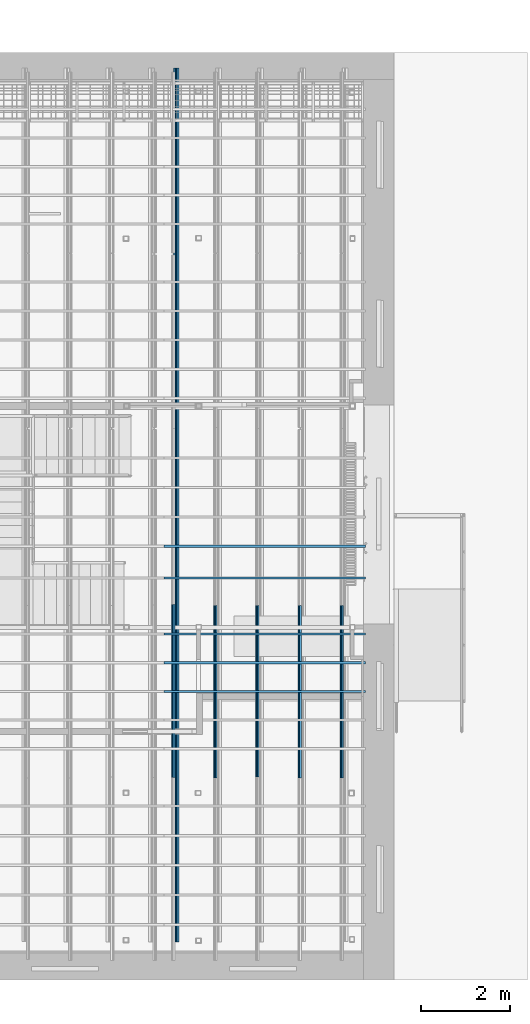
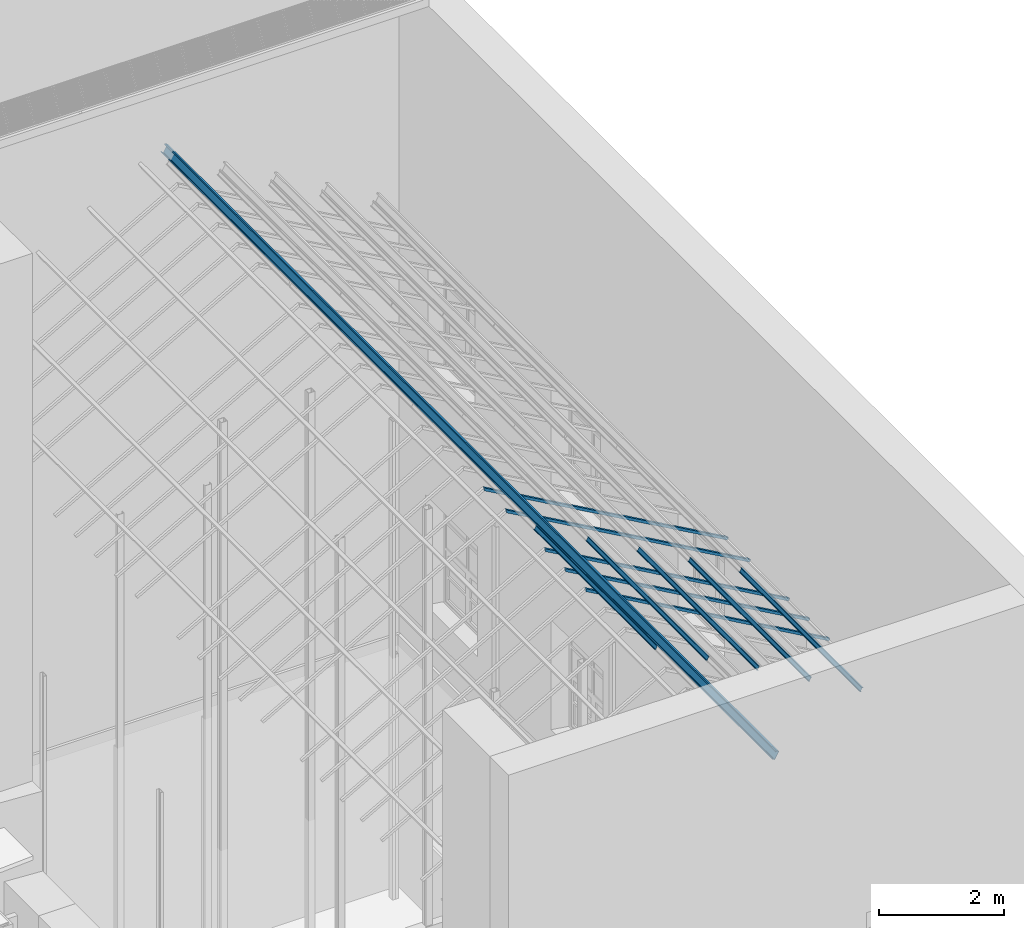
# One storey, part 24 of 75: 11 beams.
"""IFC2X3 building model written with IfcOpenShell, lengths in metres."""

from ifc_helpers import new_model, entity, si_unit, converted_unit, derived_unit, direction, frame, frame_2d, origin, origin_2d_with_axis, place, context, subcontext, project, spatial, polyline, circle_curve, parameter, trimmed, segment, composite_curve, rectangle, outline, extrude, clip, halfspace, material, type_object, element, save


model = new_model("IFC2X3")

# Units and contexts
model_context = context("Model", 3, precision=1e-05, world=origin(), true_north=direction((6.12303176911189e-17, 1.0)))
body_context = subcontext(model_context, "Body", "Model", "MODEL_VIEW")
ifc_project = project(units=[si_unit("LENGTHUNIT", "METRE"), si_unit("AREAUNIT", "SQUARE_METRE"), si_unit("VOLUMEUNIT", "CUBIC_METRE"), converted_unit("PLANEANGLEUNIT", "DEGREE", entity("IfcRatioMeasure", 0.0174532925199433), si_unit("PLANEANGLEUNIT", "RADIAN"), dimensions=[0, 0, 0, 0, 0, 0, 0]), si_unit("MASSUNIT", "GRAM", prefix="KILO"), derived_unit("MASSDENSITYUNIT", [(si_unit("MASSUNIT", "GRAM", prefix="KILO"), 1), (si_unit("LENGTHUNIT", "METRE"), -3)]), derived_unit("MOMENTOFINERTIAUNIT", [(si_unit("LENGTHUNIT", "METRE"), 4)]), si_unit("TIMEUNIT", "SECOND"), si_unit("FREQUENCYUNIT", "HERTZ"), si_unit("THERMODYNAMICTEMPERATUREUNIT", "DEGREE_CELSIUS"), derived_unit("THERMALTRANSMITTANCEUNIT", [(si_unit("MASSUNIT", "GRAM", prefix="KILO"), 1), (si_unit("THERMODYNAMICTEMPERATUREUNIT", "KELVIN"), -1), (si_unit("TIMEUNIT", "SECOND"), -3)]), derived_unit("VOLUMETRICFLOWRATEUNIT", [(si_unit("LENGTHUNIT", "METRE"), 3), (si_unit("TIMEUNIT", "SECOND"), -1)]), si_unit("ELECTRICCURRENTUNIT", "AMPERE"), si_unit("ELECTRICVOLTAGEUNIT", "VOLT"), si_unit("POWERUNIT", "WATT"), si_unit("FORCEUNIT", "NEWTON", prefix="KILO"), si_unit("ILLUMINANCEUNIT", "LUX"), si_unit("LUMINOUSFLUXUNIT", "LUMEN"), si_unit("LUMINOUSINTENSITYUNIT", "CANDELA"), derived_unit("USERDEFINED", [(si_unit("MASSUNIT", "GRAM", prefix="KILO"), -1), (si_unit("LENGTHUNIT", "METRE"), -2), (si_unit("TIMEUNIT", "SECOND"), 3), (si_unit("LUMINOUSFLUXUNIT", "LUMEN"), 1)]), derived_unit("LINEARVELOCITYUNIT", [(si_unit("LENGTHUNIT", "METRE"), 1), (si_unit("TIMEUNIT", "SECOND"), -1)]), si_unit("PRESSUREUNIT", "PASCAL"), derived_unit("USERDEFINED", [(si_unit("LENGTHUNIT", "METRE"), -2), (si_unit("MASSUNIT", "GRAM", prefix="KILO"), 1), (si_unit("TIMEUNIT", "SECOND"), -2)]), derived_unit("LINEARFORCEUNIT", [(si_unit("MASSUNIT", "GRAM", prefix="KILO"), 1), (si_unit("LENGTHUNIT", "METRE"), 1), (si_unit("TIMEUNIT", "SECOND"), -2), (si_unit("LENGTHUNIT", "METRE"), -1)]), derived_unit("PLANARFORCEUNIT", [(si_unit("MASSUNIT", "GRAM", prefix="KILO"), 1), (si_unit("LENGTHUNIT", "METRE"), 1), (si_unit("TIMEUNIT", "SECOND"), -2), (si_unit("LENGTHUNIT", "METRE"), -2)])], contexts=[model_context])

# Site, building, storey
site_placement = place(None, origin())
site = spatial("IfcSite", under=ifc_project, at=site_placement, Name="Superficie", CompositionType="ELEMENT")
building_placement = place(site_placement, origin())
building = spatial("IfcBuilding", under=site, at=building_placement, Name="Telegestiones", CompositionType="ELEMENT")
storey_placement = place(building_placement, origin())
storey = spatial("IfcBuildingStorey", under=building, at=storey_placement, Name="Nivel 0_NPT", CompositionType="ELEMENT", Elevation=0.0)

# Beams
ifc_material_1 = material(Name="Metal - Acero - 345 MPa")
beam_type_1 = type_object("IfcBeamType", Name="EST-PER-C-HGalv:C150X19.3", PredefinedType="NOTDEFINED")
beam_1_placement = place(storey_placement, frame((10.7476757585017, 13.523607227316, 15.5982882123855), z_axis=(0.0, 0.0, 1.0), x_axis=(0.0, -1.0, 0.0)))
element("IfcBeam", 1, at=beam_1_placement, inside=storey, type_object=beam_type_1, material=ifc_material_1, Name="EST-PER-C-HGalv:C150X19.3", ObjectType="EST-PER-C-HGalv:C150X19.3", context=body_context, shape_type="SweptSolid", body=[
    extrude(outline(polyline([(-0.0396666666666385, -0.0800000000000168), (0.0203333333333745, -0.0800000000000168), (0.020333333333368, -0.0600000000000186), (0.0183333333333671, -0.0600000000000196), (0.0183333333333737, -0.0780000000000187), (-0.0376666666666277, -0.0780000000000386), (-0.0376666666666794, 0.0779999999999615), (0.0183333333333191, 0.0779999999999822), (0.0183333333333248, 0.05999999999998), (0.0203333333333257, 0.059999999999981), (0.02033333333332, 0.0799999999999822), (-0.0396666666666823, 0.0799999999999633), (-0.0396666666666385, -0.0800000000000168)])), frame((-0.470000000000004, 0.0162169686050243, 0.0827212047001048), z_axis=(1.0, 0.0, 0.0), x_axis=(0.0, -0.870679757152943, 0.4918503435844)), (0.0, 0.0, 1.0), 19.55),
])
beam_type_2 = type_object("IfcBeamType", Name="IPN - Secciones en I con alas cónicas:IPN 80", PredefinedType="NOTDEFINED")
beam_2_placement = place(storey_placement, frame((10.7251251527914, -1.86439277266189, 15.6110271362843), z_axis=(0.0, 0.0, 1.0), x_axis=(0.0, 1.0, 0.0)))
element("IfcBeam", 2, at=beam_2_placement, inside=storey, type_object=beam_type_2, material=ifc_material_1, Name="IPN - Secciones en I con alas cónicas:IPN 80", ObjectType="IPN - Secciones en I con alas cónicas:IPN 80", context=body_context, shape_type="SweptSolid", body=[
    extrude(outline(composite_curve([segment(polyline([(0.0375704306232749, -0.021000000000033), (0.0399999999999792, -0.021000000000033)]), True, "CONTINUOUS"), segment(polyline([(0.0399999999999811, -0.0210000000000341), (0.0400000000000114, 0.0209999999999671)]), True, "CONTINUOUS"), segment(polyline([(0.0400000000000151, 0.020999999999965), (0.0375704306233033, 0.0209999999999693)]), True, "CONTINUOUS"), segment(trimmed(circle_curve(frame_2d((0.0375704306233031, 0.0186999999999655), x_axis=(0.0, 1.0)), 0.00230000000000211), [parameter(0.0)], [parameter(82.0303896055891)], True, "PARAMETER"), True, "CONTINUOUS"), segment(polyline([(0.0352926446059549, 0.0190188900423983), (0.0333732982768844, 0.0053092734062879)]), True, "CONTINUOUS"), segment(trimmed(circle_curve(frame_2d((0.0295109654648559, 0.00584999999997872), x_axis=(0.990341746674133, -0.138647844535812)), 0.00390000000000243), [parameter(277.969610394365)], [parameter(0.0)], True, "PARAMETER"), False, "CONTINUOUS"), segment(polyline([(0.0295109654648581, 0.00194999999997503), (-0.0295109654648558, 0.00195000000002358)]), True, "CONTINUOUS"), segment(trimmed(circle_curve(frame_2d((-0.0295109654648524, 0.00585000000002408), x_axis=(0.0, -1.0)), 0.0038999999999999), [parameter(277.969610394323)], [parameter(0.0)], True, "PARAMETER"), False, "CONTINUOUS"), segment(polyline([(-0.0333732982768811, 0.00530927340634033), (-0.0352926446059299, 0.0190188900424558)]), True, "CONTINUOUS"), segment(trimmed(circle_curve(frame_2d((-0.0375704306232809, 0.0187000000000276), x_axis=(0.990341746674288, 0.13864784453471)), 0.00230000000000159), [parameter(0.0)], [parameter(82.0303896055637)], True, "PARAMETER"), True, "CONTINUOUS"), segment(polyline([(-0.0375704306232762, 0.0210000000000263), (-0.0399999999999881, 0.0210000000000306)]), True, "CONTINUOUS"), segment(polyline([(-0.0399999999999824, 0.0210000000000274), (-0.0400000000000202, -0.0209999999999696)]), True, "CONTINUOUS"), segment(polyline([(-0.0400000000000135, -0.0209999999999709), (-0.0375704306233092, -0.0209999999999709)]), True, "CONTINUOUS"), segment(trimmed(circle_curve(frame_2d((-0.037570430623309, -0.0186999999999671), x_axis=(0.0, -1.0)), 0.00230000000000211), [parameter(0.0)], [parameter(82.0303896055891)], True, "PARAMETER"), True, "CONTINUOUS"), segment(polyline([(-0.0352926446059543, -0.0190188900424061), (-0.0333732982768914, -0.00530927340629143)]), True, "CONTINUOUS"), segment(trimmed(circle_curve(frame_2d((-0.0295109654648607, -0.00584999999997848), x_axis=(-0.990341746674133, 0.138647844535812)), 0.00390000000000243), [parameter(277.969610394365)], [parameter(0.0)], True, "PARAMETER"), False, "CONTINUOUS"), segment(polyline([(-0.0295109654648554, -0.00194999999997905), (0.0295109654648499, -0.00195000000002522)]), True, "CONTINUOUS"), segment(trimmed(circle_curve(frame_2d((0.0295109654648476, -0.00585000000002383), x_axis=(0.0, 1.0)), 0.0038999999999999), [parameter(277.969610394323)], [parameter(0.0)], True, "PARAMETER"), False, "CONTINUOUS"), segment(polyline([(0.0333732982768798, -0.00530927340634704), (0.035292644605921, -0.0190188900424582)]), True, "CONTINUOUS"), segment(trimmed(circle_curve(frame_2d((0.037570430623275, -0.0187000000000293), x_axis=(-0.990341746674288, -0.13864784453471)), 0.00230000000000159), [parameter(0.0)], [parameter(82.0303896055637)], True, "PARAMETER"), True, "CONTINUOUS")], self_intersect=False)), frame((-0.0138500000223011, 0.0245925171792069, -0.0435339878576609), z_axis=(1.0, 0.0, 0.0), x_axis=(0.0, -0.491850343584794, 0.87067975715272)), (0.0, 0.0, 1.0), 3.8738500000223),
])
beam_3_placement = place(storey_placement, frame((14.4995219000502, -1.87519277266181, 13.4788558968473), z_axis=(0.0, 0.0, 1.0), x_axis=(0.0, 1.0, 0.0)))
element("IfcBeam", 3, at=beam_3_placement, inside=storey, type_object=beam_type_2, material=ifc_material_1, Name="IPN - Secciones en I con alas cónicas:IPN 80", ObjectType="IPN - Secciones en I con alas cónicas:IPN 80", context=body_context, shape_type="SweptSolid", body=[
    extrude(outline(composite_curve([segment(polyline([(0.0375704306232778, -0.0210000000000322), (0.0399999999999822, -0.0210000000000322)]), True, "CONTINUOUS"), segment(polyline([(0.0399999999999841, -0.0210000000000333), (0.0400000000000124, 0.020999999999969)]), True, "CONTINUOUS"), segment(polyline([(0.0400000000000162, 0.0209999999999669), (0.0375704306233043, 0.0209999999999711)]), True, "CONTINUOUS"), segment(trimmed(circle_curve(frame_2d((0.0375704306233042, 0.0186999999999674), x_axis=(0.0, 1.0)), 0.00230000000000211), [parameter(0.0)], [parameter(82.0303896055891)], True, "PARAMETER"), True, "CONTINUOUS"), segment(polyline([(0.0352926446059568, 0.0190188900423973), (0.0333732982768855, 0.00530927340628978)]), True, "CONTINUOUS"), segment(trimmed(circle_curve(frame_2d((0.029510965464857, 0.0058499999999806), x_axis=(0.990341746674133, -0.138647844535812)), 0.00390000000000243), [parameter(277.969610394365)], [parameter(0.0)], True, "PARAMETER"), False, "CONTINUOUS"), segment(polyline([(0.0295109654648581, 0.00194999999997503), (-0.0295109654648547, 0.00195000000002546)]), True, "CONTINUOUS"), segment(trimmed(circle_curve(frame_2d((-0.0295109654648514, 0.00585000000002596), x_axis=(0.0, -1.0)), 0.0038999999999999), [parameter(277.969610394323)], [parameter(0.0)], True, "PARAMETER"), False, "CONTINUOUS"), segment(polyline([(-0.0333732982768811, 0.00530927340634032), (-0.0352926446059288, 0.0190188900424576)]), True, "CONTINUOUS"), segment(trimmed(circle_curve(frame_2d((-0.0375704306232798, 0.0187000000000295), x_axis=(0.990341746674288, 0.13864784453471)), 0.00230000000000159), [parameter(0.0)], [parameter(82.0303896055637)], True, "PARAMETER"), True, "CONTINUOUS"), segment(polyline([(-0.0375704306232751, 0.0210000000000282), (-0.039999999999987, 0.0210000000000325)]), True, "CONTINUOUS"), segment(polyline([(-0.0399999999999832, 0.0210000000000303), (-0.0400000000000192, -0.0209999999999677)]), True, "CONTINUOUS"), segment(polyline([(-0.0400000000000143, -0.020999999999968), (-0.03757043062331, -0.020999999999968)]), True, "CONTINUOUS"), segment(trimmed(circle_curve(frame_2d((-0.0375704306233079, -0.0186999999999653), x_axis=(0.0, -1.0)), 0.00230000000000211), [parameter(0.0)], [parameter(82.0303896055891)], True, "PARAMETER"), True, "CONTINUOUS"), segment(polyline([(-0.035292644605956, -0.0190188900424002), (-0.0333732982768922, -0.00530927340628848)]), True, "CONTINUOUS"), segment(trimmed(circle_curve(frame_2d((-0.0295109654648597, -0.00584999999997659), x_axis=(-0.990341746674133, 0.138647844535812)), 0.00390000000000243), [parameter(277.969610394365)], [parameter(0.0)], True, "PARAMETER"), False, "CONTINUOUS"), segment(polyline([(-0.0295109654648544, -0.00194999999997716), (0.029510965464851, -0.00195000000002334)]), True, "CONTINUOUS"), segment(trimmed(circle_curve(frame_2d((0.0295109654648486, -0.00585000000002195), x_axis=(0.0, 1.0)), 0.0038999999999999), [parameter(277.969610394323)], [parameter(0.0)], True, "PARAMETER"), False, "CONTINUOUS"), segment(polyline([(0.0333732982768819, -0.00530927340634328), (0.0352926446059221, -0.0190188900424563)]), True, "CONTINUOUS"), segment(trimmed(circle_curve(frame_2d((0.0375704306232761, -0.0187000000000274), x_axis=(-0.990341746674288, -0.13864784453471)), 0.00230000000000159), [parameter(0.0)], [parameter(82.0303896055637)], True, "PARAMETER"), True, "CONTINUOUS")], self_intersect=False)), frame((-0.0138500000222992, 0.0245925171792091, -0.0435339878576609), z_axis=(1.0, 0.0, 0.0), x_axis=(0.0, -0.491850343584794, 0.87067975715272)), (0.0, 0.0, 1.0), 3.8608500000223),
])
beam_4_placement = place(storey_placement, frame((11.6687243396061, -1.8751927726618, 15.0779843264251), z_axis=(0.0, 0.0, 1.0), x_axis=(0.0, 1.0, 0.0)))
element("IfcBeam", 4, at=beam_4_placement, inside=storey, type_object=beam_type_2, material=ifc_material_1, Name="IPN - Secciones en I con alas cónicas:IPN 80", ObjectType="IPN - Secciones en I con alas cónicas:IPN 80", context=body_context, shape_type="SweptSolid", body=[
    extrude(outline(composite_curve([segment(polyline([(0.0375704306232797, -0.0210000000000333), (0.0399999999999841, -0.0210000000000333)]), True, "CONTINUOUS"), segment(polyline([(0.0399999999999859, -0.0210000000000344), (0.0400000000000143, 0.020999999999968)]), True, "CONTINUOUS"), segment(polyline([(0.0400000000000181, 0.0209999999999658), (0.0375704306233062, 0.0209999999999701)]), True, "CONTINUOUS"), segment(trimmed(circle_curve(frame_2d((0.0375704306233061, 0.0186999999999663), x_axis=(0.0, 1.0)), 0.00230000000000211), [parameter(0.0)], [parameter(82.0303896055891)], True, "PARAMETER"), True, "CONTINUOUS"), segment(polyline([(0.0352926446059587, 0.0190188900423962), (0.0333732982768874, 0.00530927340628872)]), True, "CONTINUOUS"), segment(trimmed(circle_curve(frame_2d((0.0295109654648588, 0.00584999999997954), x_axis=(0.990341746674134, -0.138647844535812)), 0.00390000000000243), [parameter(277.969610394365)], [parameter(0.0)], True, "PARAMETER"), False, "CONTINUOUS"), segment(polyline([(0.02951096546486, 0.00194999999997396), (-0.0295109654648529, 0.0019500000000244)]), True, "CONTINUOUS"), segment(trimmed(circle_curve(frame_2d((-0.0295109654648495, 0.0058500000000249), x_axis=(0.0, -1.0)), 0.0038999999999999), [parameter(277.969610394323)], [parameter(0.0)], True, "PARAMETER"), False, "CONTINUOUS"), segment(polyline([(-0.0333732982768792, 0.00530927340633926), (-0.0352926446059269, 0.0190188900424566)]), True, "CONTINUOUS"), segment(trimmed(circle_curve(frame_2d((-0.037570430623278, 0.0187000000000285), x_axis=(0.990341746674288, 0.13864784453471)), 0.00230000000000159), [parameter(0.0)], [parameter(82.0303896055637)], True, "PARAMETER"), True, "CONTINUOUS"), segment(polyline([(-0.0375704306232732, 0.0210000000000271), (-0.0399999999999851, 0.0210000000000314)]), True, "CONTINUOUS"), segment(polyline([(-0.0399999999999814, 0.0210000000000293), (-0.0400000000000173, -0.0209999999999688)]), True, "CONTINUOUS"), segment(polyline([(-0.0400000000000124, -0.020999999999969), (-0.0375704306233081, -0.020999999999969)]), True, "CONTINUOUS"), segment(trimmed(circle_curve(frame_2d((-0.0375704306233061, -0.0186999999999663), x_axis=(0.0, -1.0)), 0.00230000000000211), [parameter(0.0)], [parameter(82.0303896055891)], True, "PARAMETER"), True, "CONTINUOUS"), segment(polyline([(-0.0352926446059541, -0.0190188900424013), (-0.0333732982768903, -0.00530927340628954)]), True, "CONTINUOUS"), segment(trimmed(circle_curve(frame_2d((-0.0295109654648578, -0.00584999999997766), x_axis=(-0.990341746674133, 0.138647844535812)), 0.00390000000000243), [parameter(277.969610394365)], [parameter(0.0)], True, "PARAMETER"), False, "CONTINUOUS"), segment(polyline([(-0.0295109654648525, -0.00194999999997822), (0.0295109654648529, -0.0019500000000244)]), True, "CONTINUOUS"), segment(trimmed(circle_curve(frame_2d((0.0295109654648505, -0.00585000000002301), x_axis=(0.0, 1.0)), 0.0038999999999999), [parameter(277.969610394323)], [parameter(0.0)], True, "PARAMETER"), False, "CONTINUOUS"), segment(polyline([(0.0333732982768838, -0.00530927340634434), (0.035292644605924, -0.0190188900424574)]), True, "CONTINUOUS"), segment(trimmed(circle_curve(frame_2d((0.037570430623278, -0.0187000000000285), x_axis=(-0.990341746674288, -0.13864784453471)), 0.00230000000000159), [parameter(0.0)], [parameter(82.0303896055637)], True, "PARAMETER"), True, "CONTINUOUS")], self_intersect=False)), frame((-0.0138500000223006, 0.0245925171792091, -0.0435339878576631), z_axis=(1.0, 0.0, 0.0), x_axis=(0.0, -0.491850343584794, 0.87067975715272)), (0.0, 0.0, 1.0), 3.8608500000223),
])
beam_5_placement = place(storey_placement, frame((12.6123235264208, -1.8551927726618, 14.5449415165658), z_axis=(0.0, 0.0, 1.0), x_axis=(0.0, 1.0, 0.0)))
element("IfcBeam", 5, at=beam_5_placement, inside=storey, type_object=beam_type_2, material=ifc_material_1, Name="IPN - Secciones en I con alas cónicas:IPN 80", ObjectType="IPN - Secciones en I con alas cónicas:IPN 80", context=body_context, shape_type="SweptSolid", body=[
    extrude(outline(composite_curve([segment(polyline([(0.037570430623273, -0.021000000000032), (0.0399999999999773, -0.021000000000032)]), True, "CONTINUOUS"), segment(polyline([(0.0399999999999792, -0.021000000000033), (0.0400000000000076, 0.0209999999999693)]), True, "CONTINUOUS"), segment(polyline([(0.0400000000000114, 0.0209999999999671), (0.0375704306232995, 0.0209999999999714)]), True, "CONTINUOUS"), segment(trimmed(circle_curve(frame_2d((0.0375704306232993, 0.0186999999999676), x_axis=(0.0, 1.0)), 0.00230000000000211), [parameter(0.0)], [parameter(82.0303896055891)], True, "PARAMETER"), True, "CONTINUOUS"), segment(polyline([(0.035292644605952, 0.0190188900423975), (0.0333732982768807, 0.00530927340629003)]), True, "CONTINUOUS"), segment(trimmed(circle_curve(frame_2d((0.0295109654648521, 0.00584999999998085), x_axis=(0.990341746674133, -0.138647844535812)), 0.00390000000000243), [parameter(277.969610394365)], [parameter(0.0)], True, "PARAMETER"), False, "CONTINUOUS"), segment(polyline([(0.0295109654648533, 0.00194999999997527), (-0.0295109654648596, 0.0019500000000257)]), True, "CONTINUOUS"), segment(trimmed(circle_curve(frame_2d((-0.0295109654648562, 0.0058500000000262), x_axis=(0.0, -1.0)), 0.0038999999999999), [parameter(277.969610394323)], [parameter(0.0)], True, "PARAMETER"), False, "CONTINUOUS"), segment(polyline([(-0.0333732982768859, 0.00530927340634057), (-0.0352926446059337, 0.0190188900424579)]), True, "CONTINUOUS"), segment(trimmed(circle_curve(frame_2d((-0.0375704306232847, 0.0187000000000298), x_axis=(0.990341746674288, 0.13864784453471)), 0.00230000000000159), [parameter(0.0)], [parameter(82.0303896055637)], True, "PARAMETER"), True, "CONTINUOUS"), segment(polyline([(-0.03757043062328, 0.0210000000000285), (-0.0399999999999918, 0.0210000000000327)]), True, "CONTINUOUS"), segment(polyline([(-0.0399999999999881, 0.0210000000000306), (-0.040000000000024, -0.0209999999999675)]), True, "CONTINUOUS"), segment(polyline([(-0.0400000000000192, -0.0209999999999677), (-0.0375704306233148, -0.0209999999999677)]), True, "CONTINUOUS"), segment(trimmed(circle_curve(frame_2d((-0.0375704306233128, -0.018699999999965), x_axis=(0.0, -1.0)), 0.00230000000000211), [parameter(0.0)], [parameter(82.0303896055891)], True, "PARAMETER"), True, "CONTINUOUS"), segment(polyline([(-0.0352926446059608, -0.0190188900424), (-0.0333732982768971, -0.00530927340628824)]), True, "CONTINUOUS"), segment(trimmed(circle_curve(frame_2d((-0.0295109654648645, -0.00584999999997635), x_axis=(-0.990341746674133, 0.138647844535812)), 0.00390000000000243), [parameter(277.969610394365)], [parameter(0.0)], True, "PARAMETER"), False, "CONTINUOUS"), segment(polyline([(-0.0295109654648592, -0.00194999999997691), (0.0295109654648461, -0.00195000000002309)]), True, "CONTINUOUS"), segment(trimmed(circle_curve(frame_2d((0.0295109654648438, -0.0058500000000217), x_axis=(0.0, 1.0)), 0.0038999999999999), [parameter(277.969610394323)], [parameter(0.0)], True, "PARAMETER"), False, "CONTINUOUS"), segment(polyline([(0.0333732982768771, -0.00530927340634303), (0.0352926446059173, -0.0190188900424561)]), True, "CONTINUOUS"), segment(trimmed(circle_curve(frame_2d((0.0375704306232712, -0.0187000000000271), x_axis=(-0.990341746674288, -0.13864784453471)), 0.00230000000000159), [parameter(0.0)], [parameter(82.0303896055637)], True, "PARAMETER"), True, "CONTINUOUS")], self_intersect=False)), frame((-0.0138500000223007, 0.0245925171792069, -0.0435339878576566), z_axis=(1.0, 0.0, 0.0), x_axis=(0.0, -0.491850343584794, 0.87067975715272)), (0.0, 0.0, 1.0), 3.8408500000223),
])
beam_6_placement = place(storey_placement, frame((13.5559227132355, -1.8751927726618, 14.0118987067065), z_axis=(0.0, 0.0, 1.0), x_axis=(0.0, 1.0, 0.0)))
element("IfcBeam", 6, at=beam_6_placement, inside=storey, type_object=beam_type_2, material=ifc_material_1, Name="IPN - Secciones en I con alas cónicas:IPN 80", ObjectType="IPN - Secciones en I con alas cónicas:IPN 80", context=body_context, shape_type="SweptSolid", body=[
    extrude(outline(composite_curve([segment(polyline([(0.0375704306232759, -0.0210000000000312), (0.0399999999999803, -0.0210000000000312)]), True, "CONTINUOUS"), segment(polyline([(0.0399999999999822, -0.0210000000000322), (0.0400000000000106, 0.0209999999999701)]), True, "CONTINUOUS"), segment(polyline([(0.0400000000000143, 0.020999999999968), (0.0375704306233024, 0.0209999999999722)]), True, "CONTINUOUS"), segment(trimmed(circle_curve(frame_2d((0.0375704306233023, 0.0186999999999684), x_axis=(0.0, 1.0)), 0.00230000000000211), [parameter(0.0)], [parameter(82.0303896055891)], True, "PARAMETER"), True, "CONTINUOUS"), segment(polyline([(0.0352926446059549, 0.0190188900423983), (0.0333732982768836, 0.00530927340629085)]), True, "CONTINUOUS"), segment(trimmed(circle_curve(frame_2d((0.0295109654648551, 0.00584999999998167), x_axis=(0.990341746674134, -0.138647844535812)), 0.00390000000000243), [parameter(277.969610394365)], [parameter(0.0)], True, "PARAMETER"), False, "CONTINUOUS"), segment(polyline([(0.0295109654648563, 0.00194999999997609), (-0.0295109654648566, 0.00195000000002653)]), True, "CONTINUOUS"), segment(trimmed(circle_curve(frame_2d((-0.0295109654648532, 0.00585000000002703), x_axis=(0.0, -1.0)), 0.0038999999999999), [parameter(277.969610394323)], [parameter(0.0)], True, "PARAMETER"), False, "CONTINUOUS"), segment(polyline([(-0.033373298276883, 0.00530927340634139), (-0.0352926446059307, 0.0190188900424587)]), True, "CONTINUOUS"), segment(trimmed(circle_curve(frame_2d((-0.0375704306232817, 0.0187000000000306), x_axis=(0.990341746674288, 0.13864784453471)), 0.00230000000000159), [parameter(0.0)], [parameter(82.0303896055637)], True, "PARAMETER"), True, "CONTINUOUS"), segment(polyline([(-0.037570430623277, 0.0210000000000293), (-0.0399999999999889, 0.0210000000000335)]), True, "CONTINUOUS"), segment(polyline([(-0.0399999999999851, 0.0210000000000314), (-0.040000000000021, -0.0209999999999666)]), True, "CONTINUOUS"), segment(polyline([(-0.0400000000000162, -0.0209999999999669), (-0.0375704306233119, -0.0209999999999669)]), True, "CONTINUOUS"), segment(trimmed(circle_curve(frame_2d((-0.0375704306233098, -0.0186999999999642), x_axis=(0.0, -1.0)), 0.00230000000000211), [parameter(0.0)], [parameter(82.0303896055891)], True, "PARAMETER"), True, "CONTINUOUS"), segment(polyline([(-0.0352926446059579, -0.0190188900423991), (-0.0333732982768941, -0.00530927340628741)]), True, "CONTINUOUS"), segment(trimmed(circle_curve(frame_2d((-0.0295109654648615, -0.00584999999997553), x_axis=(-0.990341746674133, 0.138647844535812)), 0.00390000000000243), [parameter(277.969610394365)], [parameter(0.0)], True, "PARAMETER"), False, "CONTINUOUS"), segment(polyline([(-0.0295109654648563, -0.00194999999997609), (0.0295109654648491, -0.00195000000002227)]), True, "CONTINUOUS"), segment(trimmed(circle_curve(frame_2d((0.0295109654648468, -0.00585000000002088), x_axis=(0.0, 1.0)), 0.0038999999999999), [parameter(277.969610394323)], [parameter(0.0)], True, "PARAMETER"), False, "CONTINUOUS"), segment(polyline([(0.03337329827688, -0.00530927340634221), (0.0352926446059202, -0.0190188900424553)]), True, "CONTINUOUS"), segment(trimmed(circle_curve(frame_2d((0.0375704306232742, -0.0187000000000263), x_axis=(-0.990341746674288, -0.13864784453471)), 0.00230000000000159), [parameter(0.0)], [parameter(82.0303896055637)], True, "PARAMETER"), True, "CONTINUOUS")], self_intersect=False)), frame((-0.0138500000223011, 0.0245925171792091, -0.0435339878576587), z_axis=(1.0, 0.0, 0.0), x_axis=(0.0, -0.491850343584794, 0.87067975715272)), (0.0, 0.0, 1.0), 3.8608500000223),
])
ifc_material_2 = material(Name="Madera - Madera de construcción")
beam_type_3 = type_object("IfcBeamType", Name="Madera:50x50mm", PredefinedType="NOTDEFINED")
beam_7_placement = place(storey_placement, frame((14.9763682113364, 3.29594056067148, 13.2094835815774), z_axis=(0.491850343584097, 0.0, 0.870679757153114), x_axis=(-0.870679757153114, 0.0, 0.491850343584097)))
element("IfcBeam", 7, at=beam_7_placement, inside=storey, type_object=beam_type_3, material=ifc_material_2, Name="Madera:50x50mm", ObjectType="Madera:50x50mm", context=body_context, shape_type="SweptSolid", body=[
    clip(extrude(rectangle(XDim=0.0499999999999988, YDim=0.0500000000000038, at=origin_2d_with_axis()), frame((-0.0851437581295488, 0.0, -0.115000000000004), z_axis=(1.0, 0.0, 0.0), x_axis=(0.0, 0.0, -1.0)), (0.0, 0.0, 1.0), 5.18302027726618), halfspace(frame((5.06963132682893, 0.0, -0.140000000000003), z_axis=(0.870679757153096, 0.0, -0.49185034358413), x_axis=(0.0, -1.0, 0.0)), False)),
])
beam_8_placement = place(storey_placement, frame((14.9763682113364, 2.58677389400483, 13.2094835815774), z_axis=(0.491850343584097, 0.0, 0.870679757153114), x_axis=(-0.870679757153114, 0.0, 0.491850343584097)))
element("IfcBeam", 8, at=beam_8_placement, inside=storey, type_object=beam_type_3, material=ifc_material_2, Name="Madera:50x50mm", ObjectType="Madera:50x50mm", context=body_context, shape_type="SweptSolid", body=[
    clip(extrude(rectangle(XDim=0.0500000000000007, YDim=0.0500000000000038, at=frame_2d((1.47451495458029e-15, 0.0), x_axis=(1.0, 0.0))), frame((-0.0851437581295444, 0.0, -0.115000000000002), z_axis=(1.0, 0.0, 0.0), x_axis=(0.0, 0.0, -1.0)), (0.0, 0.0, 1.0), 5.18302027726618), halfspace(frame((5.06963132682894, 0.0, -0.140000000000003), z_axis=(0.870679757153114, 0.0, -0.491850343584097), x_axis=(0.0, -1.0, 0.0)), False)),
])
beam_9_placement = place(storey_placement, frame((14.9763682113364, 0.693273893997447, 13.2094835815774), z_axis=(0.491850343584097, 0.0, 0.870679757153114), x_axis=(-0.870679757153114, 0.0, 0.491850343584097)))
element("IfcBeam", 9, at=beam_9_placement, inside=storey, type_object=beam_type_3, material=ifc_material_2, Name="Madera:50x50mm", ObjectType="Madera:50x50mm", context=body_context, shape_type="SweptSolid", body=[
    clip(extrude(rectangle(XDim=0.0499999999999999, YDim=0.0500000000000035, at=origin_2d_with_axis()), frame((-0.0851437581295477, 0.0, -0.115), z_axis=(1.0, 0.0, 0.0), x_axis=(0.0, 0.0, -1.0)), (0.0, 0.0, 1.0), 5.18302027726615), halfspace(frame((5.06963132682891, 0.0, -0.140000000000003), z_axis=(0.870679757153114, 0.0, -0.491850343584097), x_axis=(0.0, -1.0, 0.0)), False)),
])
beam_10_placement = place(storey_placement, frame((14.9763682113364, 1.33544056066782, 13.2094835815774), z_axis=(0.491850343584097, 0.0, 0.870679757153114), x_axis=(-0.870679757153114, 0.0, 0.491850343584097)))
element("IfcBeam", 10, at=beam_10_placement, inside=storey, type_object=beam_type_3, material=ifc_material_2, Name="Madera:50x50mm", ObjectType="Madera:50x50mm", context=body_context, shape_type="SweptSolid", body=[
    clip(extrude(rectangle(XDim=0.0500000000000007, YDim=0.0500000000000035, at=frame_2d((1.47451495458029e-15, -1.35308431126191e-16), x_axis=(1.0, 0.0))), frame((-0.0851437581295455, 0.0, -0.115), z_axis=(1.0, 0.0, 0.0), x_axis=(0.0, 0.0, -1.0)), (0.0, 0.0, 1.0), 5.18302027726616), halfspace(frame((5.06963132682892, 0.0, -0.140000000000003), z_axis=(0.870679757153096, 0.0, -0.49185034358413), x_axis=(0.0, -1.0, 0.0)), False)),
])
beam_11_placement = place(storey_placement, frame((14.9763682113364, 0.0511072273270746, 13.2094835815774), z_axis=(0.491850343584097, 0.0, 0.870679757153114), x_axis=(-0.870679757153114, 0.0, 0.491850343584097)))
element("IfcBeam", 11, at=beam_11_placement, inside=storey, type_object=beam_type_3, material=ifc_material_2, Name="Madera:50x50mm", ObjectType="Madera:50x50mm", context=body_context, shape_type="SweptSolid", body=[
    clip(extrude(rectangle(XDim=0.0499999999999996, YDim=0.0500000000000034, at=frame_2d((0.0, -8.67361737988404e-18), x_axis=(1.0, 0.0))), frame((-0.0851437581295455, 0.0, -0.115000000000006), z_axis=(1.0, 0.0, 0.0), x_axis=(0.0, 0.0, -1.0)), (0.0, 0.0, 1.0), 5.18302027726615), halfspace(frame((5.06963132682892, 0.0, -0.140000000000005), z_axis=(0.870679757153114, 0.0, -0.491850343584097), x_axis=(0.0, -1.0, 0.0)), False)),
])

save(model, "model.ifc")
